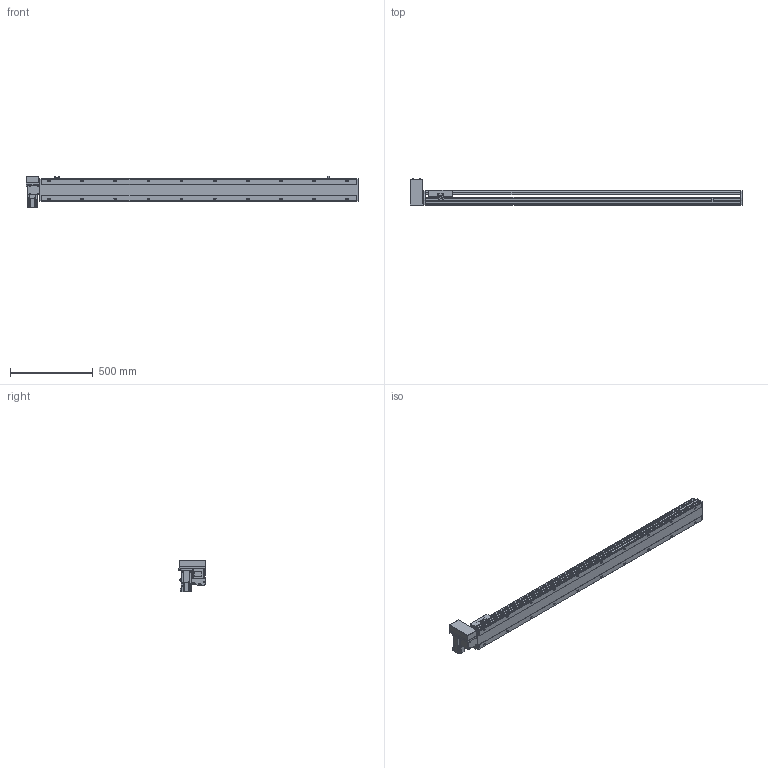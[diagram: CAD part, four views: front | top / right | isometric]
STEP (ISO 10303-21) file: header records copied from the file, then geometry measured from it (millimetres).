
FILE_DESCRIPTION( ( 'STEP AP214' ), '1' );
FILE_NAME( 'x:/temp/worker_6/temp/exporttempdir_5396_221_hY73r/format_0/PBS140S-P40-S1650-RU-T40-C1-N(0).stp', '2022-06-09T00:55:48', ( 'License CC BY-ND 4.0' ), ( 'CADENAS' ), ' ', 'PARTsolutions', ' ' );
FILE_SCHEMA( ( 'AUTOMOTIVE_DESIGN { 1 0 10303 214 1 1 1 1 }' ) );
Length unit declared in the file: millimetre
Products named in the file (7): PBS140S-P40-S1650-RU-T40-C1-N(0); _PBS140S-S1650()_body; _PBS140ST-RU_motors; _T40-p1; _PBS140S_sliser; _PBS140S_plant; _PBS140S_sensor
Assembly tree (8 placements, depth 2):
  PBS140S-P40-S1650-RU-T40-C1-N(0)
    _PBS140S-S1650()_body
    _PBS140ST-RU_motors
    _T40-p1
    _PBS140S_sliser
    _PBS140S_plant
    _PBS140S_sensor  x3
Bounding box: 2004 x 162.5 x 189.7 mm (x, y, z)
Volume: 10000805.5 mm3; surface area: 1702868.8 mm2
Topology: 8 solids, 8 shells, 1131 faces, 2991 edges, 1957 vertices
Faces by surface type: plane 714, cylinder 361, cone 46, sphere 8, torus 2
Full cylindrical faces by diameter (mm): 3.242 x4, 4 x2, 4.134 x4, 4.4 x8, 4.5 x2, 4.8 x4, 4.917 x28, 5.5 x7, 6 x2, 7 x22, 7.5 x8, 8 x12, 8.5 x4, 10.5 x20, 14 x1, 30 x2, 50 x2
Entity records: 41620 total; most frequent: CARTESIAN_POINT 6742, DIRECTION 5488, ORIENTED_EDGE 5182, EDGE_CURVE 2591, AXIS2_PLACEMENT_3D 1919, VERTEX_POINT 1801, LINE 1650, VECTOR 1650
